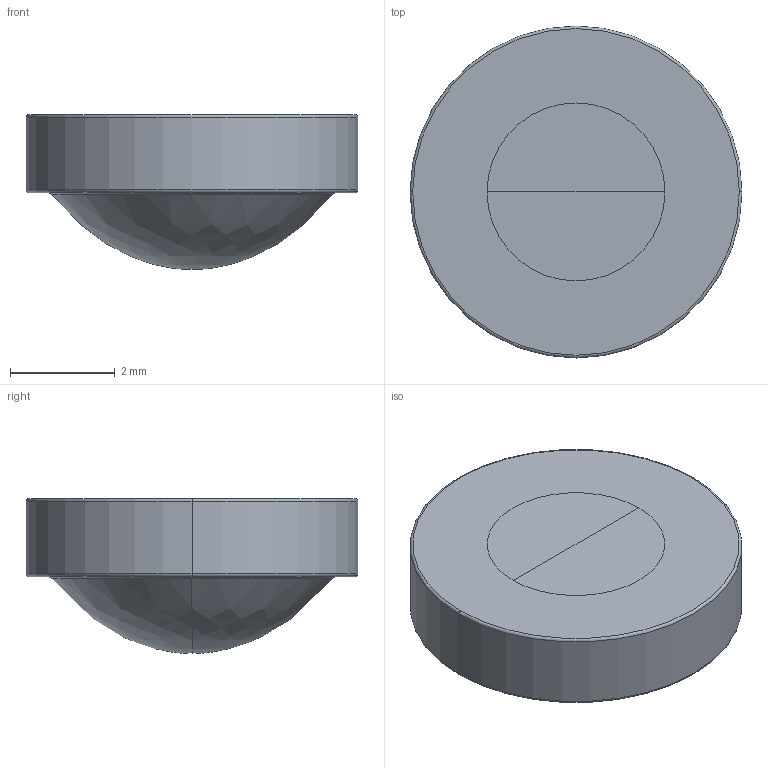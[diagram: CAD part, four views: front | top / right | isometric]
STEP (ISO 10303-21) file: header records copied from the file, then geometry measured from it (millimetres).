
FILE_DESCRIPTION((''),'2;1');
FILE_NAME('357610','2025-07-23T21:38:37',('admin'),('LIGHTPATH'),'CREO PARAMETRIC BY PTC INC, 2024063','CREO PARAMETRIC BY PTC INC, 2024063','');
FILE_SCHEMA(('CONFIG_CONTROL_DESIGN'));
Length unit declared in the file: millimetre
Products named in the file (1): 357610
Bounding box: 6.33 x 6.33 x 2.95 mm (x, y, z)
Volume: 64.3 mm3; surface area: 97.6 mm2
Topology: 1 solids, 1 shells, 14 faces, 30 edges, 16 vertices
Faces by surface type: torus 6, revolution 4, plane 2, cylinder 2
Entity records: 917 total; most frequent: CARTESIAN_POINT 581, DIRECTION 68, ORIENTED_EDGE 52, AXIS2_PLACEMENT_3D 30, EDGE_CURVE 26, CIRCLE 20, VERTEX_POINT 16, EDGE_LOOP 16
